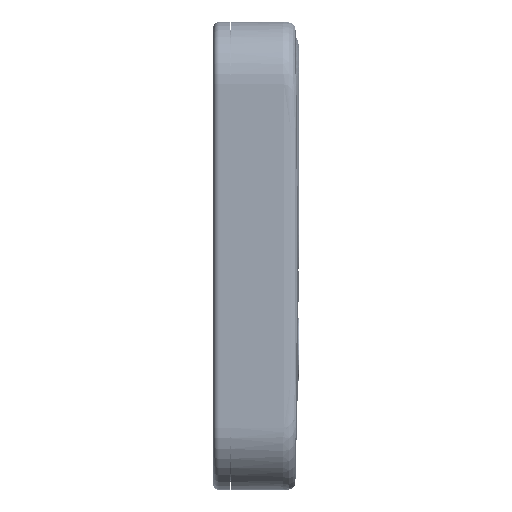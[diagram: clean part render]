
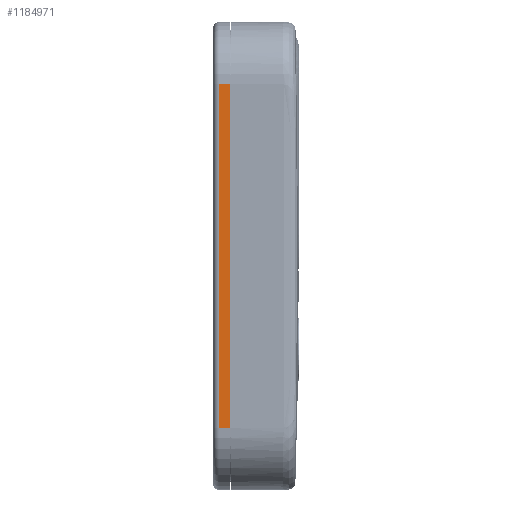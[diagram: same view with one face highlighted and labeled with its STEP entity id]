
A CAD part, left-side view. The second image highlights one B-rep face of the part: STEP entity #1184971.
In plain terms, the highlighted planar face has unit normal (-1, 0, 0).
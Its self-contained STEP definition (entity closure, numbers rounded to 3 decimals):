
#1184971 = ADVANCED_FACE('',(#1184972),#1184986,.T.);
#1184972 = FACE_BOUND('',#1184973,.T.);
#1184973 = EDGE_LOOP('',(#1184974,#1185009,#1185037,#1185065));
#1184974 = ORIENTED_EDGE('',*,*,#1184975,.T.);
#1184975 = EDGE_CURVE('',#1184976,#1184978,#1184980,.T.);
#1184976 = VERTEX_POINT('',#1184977);
#1184977 = CARTESIAN_POINT('',(-54.,0.4,-55.));
#1184978 = VERTEX_POINT('',#1184979);
#1184979 = CARTESIAN_POINT('',(-54.,-2.9,-55.));
#1184980 = SURFACE_CURVE('',#1184981,(#1184985,#1184997),.PCURVE_S1.);
#1184981 = LINE('',#1184982,#1184983);
#1184982 = CARTESIAN_POINT('',(-54.,2.4,-55.));
#1184983 = VECTOR('',#1184984,1.);
#1184984 = DIRECTION('',(0.,-1.,0.));
#1184985 = PCURVE('',#1184986,#1184991);
#1184986 = PLANE('',#1184987);
#1184987 = AXIS2_PLACEMENT_3D('',#1184988,#1184989,#1184990);
#1184988 = CARTESIAN_POINT('',(-54.,2.4,-55.));
#1184989 = DIRECTION('',(-1.,0.,0.));
#1184990 = DIRECTION('',(0.,0.,1.));
#1184991 = DEFINITIONAL_REPRESENTATION('',(#1184992),#1184996);
#1184992 = LINE('',#1184993,#1184994);
#1184993 = CARTESIAN_POINT('',(0.,0.));
#1184994 = VECTOR('',#1184995,1.);
#1184995 = DIRECTION('',(0.,-1.));
#1184996 = ( GEOMETRIC_REPRESENTATION_CONTEXT(2) 
PARAMETRIC_REPRESENTATION_CONTEXT() REPRESENTATION_CONTEXT('2D SPACE',''
  ) );
#1184997 = PCURVE('',#1184998,#1185003);
#1184998 = CYLINDRICAL_SURFACE('',#1184999,20.);
#1184999 = AXIS2_PLACEMENT_3D('',#1185000,#1185001,#1185002);
#1185000 = CARTESIAN_POINT('',(-34.,2.4,-55.));
#1185001 = DIRECTION('',(0.,1.,0.));
#1185002 = DIRECTION('',(1.,0.,0.));
#1185003 = DEFINITIONAL_REPRESENTATION('',(#1185004),#1185008);
#1185004 = LINE('',#1185005,#1185006);
#1185005 = CARTESIAN_POINT('',(3.142,0.));
#1185006 = VECTOR('',#1185007,1.);
#1185007 = DIRECTION('',(-0.,-1.));
#1185008 = ( GEOMETRIC_REPRESENTATION_CONTEXT(2) 
PARAMETRIC_REPRESENTATION_CONTEXT() REPRESENTATION_CONTEXT('2D SPACE',''
  ) );
#1185009 = ORIENTED_EDGE('',*,*,#1185010,.T.);
#1185010 = EDGE_CURVE('',#1184978,#1185011,#1185013,.T.);
#1185011 = VERTEX_POINT('',#1185012);
#1185012 = CARTESIAN_POINT('',(-54.,-2.9,55.));
#1185013 = SURFACE_CURVE('',#1185014,(#1185018,#1185025),.PCURVE_S1.);
#1185014 = LINE('',#1185015,#1185016);
#1185015 = CARTESIAN_POINT('',(-54.,-2.9,0.));
#1185016 = VECTOR('',#1185017,1.);
#1185017 = DIRECTION('',(0.,0.,1.));
#1185018 = PCURVE('',#1184986,#1185019);
#1185019 = DEFINITIONAL_REPRESENTATION('',(#1185020),#1185024);
#1185020 = LINE('',#1185021,#1185022);
#1185021 = CARTESIAN_POINT('',(55.,-5.3));
#1185022 = VECTOR('',#1185023,1.);
#1185023 = DIRECTION('',(1.,0.));
#1185024 = ( GEOMETRIC_REPRESENTATION_CONTEXT(2) 
PARAMETRIC_REPRESENTATION_CONTEXT() REPRESENTATION_CONTEXT('2D SPACE',''
  ) );
#1185025 = PCURVE('',#1185026,#1185031);
#1185026 = PLANE('',#1185027);
#1185027 = AXIS2_PLACEMENT_3D('',#1185028,#1185029,#1185030);
#1185028 = CARTESIAN_POINT('',(0.,-2.9,0.));
#1185029 = DIRECTION('',(0.,-1.,0.));
#1185030 = DIRECTION('',(1.,0.,0.));
#1185031 = DEFINITIONAL_REPRESENTATION('',(#1185032),#1185036);
#1185032 = LINE('',#1185033,#1185034);
#1185033 = CARTESIAN_POINT('',(-54.,0.));
#1185034 = VECTOR('',#1185035,1.);
#1185035 = DIRECTION('',(0.,1.));
#1185036 = ( GEOMETRIC_REPRESENTATION_CONTEXT(2) 
PARAMETRIC_REPRESENTATION_CONTEXT() REPRESENTATION_CONTEXT('2D SPACE',''
  ) );
#1185037 = ORIENTED_EDGE('',*,*,#1185038,.F.);
#1185038 = EDGE_CURVE('',#1185039,#1185011,#1185041,.T.);
#1185039 = VERTEX_POINT('',#1185040);
#1185040 = CARTESIAN_POINT('',(-54.,0.4,55.));
#1185041 = SURFACE_CURVE('',#1185042,(#1185046,#1185053),.PCURVE_S1.);
#1185042 = LINE('',#1185043,#1185044);
#1185043 = CARTESIAN_POINT('',(-54.,2.4,55.));
#1185044 = VECTOR('',#1185045,1.);
#1185045 = DIRECTION('',(0.,-1.,0.));
#1185046 = PCURVE('',#1184986,#1185047);
#1185047 = DEFINITIONAL_REPRESENTATION('',(#1185048),#1185052);
#1185048 = LINE('',#1185049,#1185050);
#1185049 = CARTESIAN_POINT('',(110.,0.));
#1185050 = VECTOR('',#1185051,1.);
#1185051 = DIRECTION('',(0.,-1.));
#1185052 = ( GEOMETRIC_REPRESENTATION_CONTEXT(2) 
PARAMETRIC_REPRESENTATION_CONTEXT() REPRESENTATION_CONTEXT('2D SPACE',''
  ) );
#1185053 = PCURVE('',#1185054,#1185059);
#1185054 = CYLINDRICAL_SURFACE('',#1185055,20.);
#1185055 = AXIS2_PLACEMENT_3D('',#1185056,#1185057,#1185058);
#1185056 = CARTESIAN_POINT('',(-34.,2.4,55.));
#1185057 = DIRECTION('',(0.,1.,0.));
#1185058 = DIRECTION('',(1.,0.,0.));
#1185059 = DEFINITIONAL_REPRESENTATION('',(#1185060),#1185064);
#1185060 = LINE('',#1185061,#1185062);
#1185061 = CARTESIAN_POINT('',(3.142,0.));
#1185062 = VECTOR('',#1185063,1.);
#1185063 = DIRECTION('',(-0.,-1.));
#1185064 = ( GEOMETRIC_REPRESENTATION_CONTEXT(2) 
PARAMETRIC_REPRESENTATION_CONTEXT() REPRESENTATION_CONTEXT('2D SPACE',''
  ) );
#1185065 = ORIENTED_EDGE('',*,*,#1185066,.F.);
#1185066 = EDGE_CURVE('',#1184976,#1185039,#1185067,.T.);
#1185067 = SURFACE_CURVE('',#1185068,(#1185072,#1185079),.PCURVE_S1.);
#1185068 = LINE('',#1185069,#1185070);
#1185069 = CARTESIAN_POINT('',(-54.,0.4,-55.));
#1185070 = VECTOR('',#1185071,1.);
#1185071 = DIRECTION('',(0.,0.,1.));
#1185072 = PCURVE('',#1184986,#1185073);
#1185073 = DEFINITIONAL_REPRESENTATION('',(#1185074),#1185078);
#1185074 = LINE('',#1185075,#1185076);
#1185075 = CARTESIAN_POINT('',(0.,-2.));
#1185076 = VECTOR('',#1185077,1.);
#1185077 = DIRECTION('',(1.,0.));
#1185078 = ( GEOMETRIC_REPRESENTATION_CONTEXT(2) 
PARAMETRIC_REPRESENTATION_CONTEXT() REPRESENTATION_CONTEXT('2D SPACE',''
  ) );
#1185079 = PCURVE('',#1185080,#1185085);
#1185080 = CYLINDRICAL_SURFACE('',#1185081,2.);
#1185081 = AXIS2_PLACEMENT_3D('',#1185082,#1185083,#1185084);
#1185082 = CARTESIAN_POINT('',(-52.,0.4,-55.));
#1185083 = DIRECTION('',(0.,0.,1.));
#1185084 = DIRECTION('',(-1.,0.,0.));
#1185085 = DEFINITIONAL_REPRESENTATION('',(#1185086),#1185090);
#1185086 = LINE('',#1185087,#1185088);
#1185087 = CARTESIAN_POINT('',(6.283,0.));
#1185088 = VECTOR('',#1185089,1.);
#1185089 = DIRECTION('',(-0.,1.));
#1185090 = ( GEOMETRIC_REPRESENTATION_CONTEXT(2) 
PARAMETRIC_REPRESENTATION_CONTEXT() REPRESENTATION_CONTEXT('2D SPACE',''
  ) );
